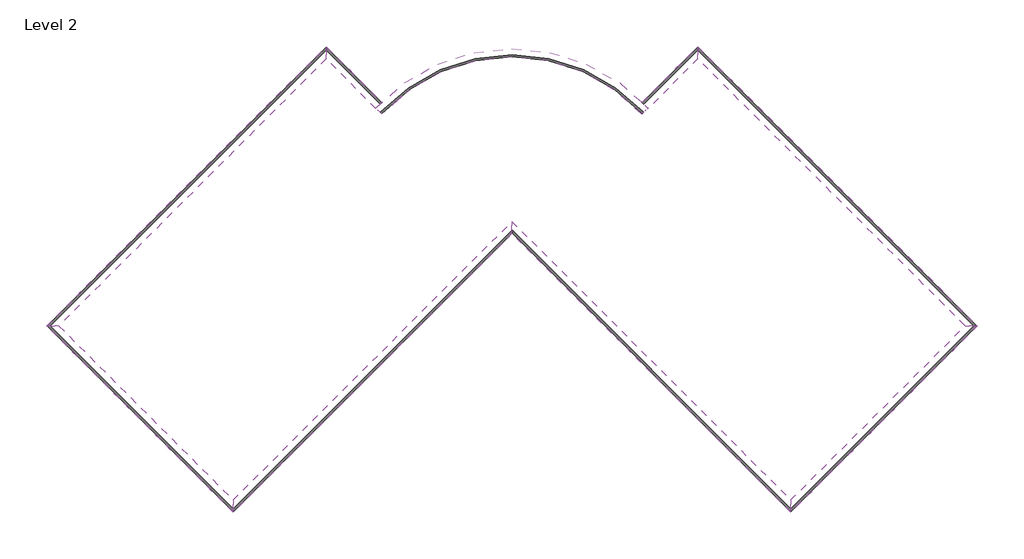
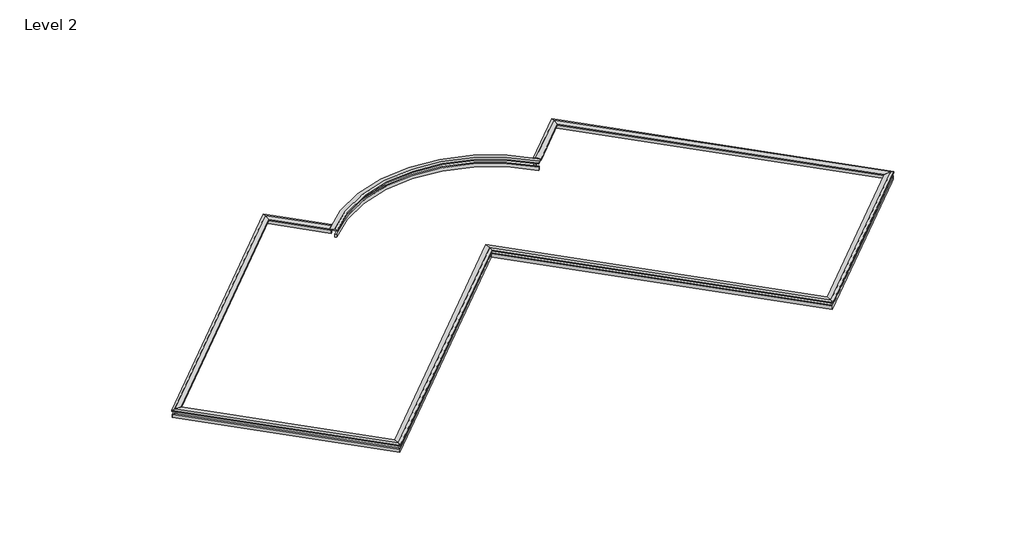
# One storey: 18 proxies.
"""IFC4 building model written with IfcOpenShell, lengths in millimetres."""

from ifc_helpers import new_model, si_unit, frame, origin, place, context, project, spatial, polyline, circle_curve, outline, extrude, faceted_brep, element, save
from ifc_brep_helpers import plane_surface, cylinder_surface, revolved_surface, advanced_brep

model = new_model("IFC4")

# Units and contexts
model_context = context("Model", 3, world=origin())
ifc_project = project(units=[si_unit("LENGTHUNIT", "METRE", prefix="MILLI")], contexts=[model_context])

# Site, building, storey
site = spatial("IfcSite", under=ifc_project)
building = spatial("IfcBuilding", under=site)
storey = spatial("IfcBuildingStorey", under=building, Name="Level 2", Elevation=3048.0)

# Proxies
placement = place(None, origin())
element("IfcBuildingElementProxy", 1, Name="Wall Sweeps", at=placement, inside=storey, context=model_context, shape_type="SweptSolid", body=[
    extrude(outline(polyline([(6055.5544139, 11965.5260839), (5990.447557, 12030.6329408), (8567.8313142, 14608.016698), (8567.8313142, 14477.8029843), (6055.5544139, 11965.5260839)])), frame((0.0, 0.0, 4165.6), z_axis=(0.0, 0.0, 1.0), x_axis=(1.0, 0.0, 0.0)), (0.0, 0.0, 1.0), 203.2),
])
element("IfcBuildingElementProxy", 2, Name="Wall Sweeps", at=placement, inside=storey, context=model_context, shape_type="Brep", body=[
    faceted_brep([(6259.8552406, 11761.2252572, 4635.5), (6062.2896059, 11958.7908919, 4673.6), (5972.4870447, 12048.5934531, 4635.5), (5972.4870447, 12048.5934531, 4572.0), (6259.8552406, 11761.2252572, 4572.0), (8567.8313142, 14069.2013307, 4635.5), (8567.8313142, 14069.2013307, 4572.0), (8567.8313142, 14643.9377225, 4572.0), (8567.8313142, 14643.9377225, 4635.5), (8567.8313142, 14464.3326001, 4673.6)], [[[0, 1, 2, 3, 4]], [[5, 6, 7, 8, 9]], [[1, 0, 5, 9]], [[2, 1, 9, 8]], [[3, 2, 8, 7]], [[4, 3, 7, 6]], [[0, 4, 6, 5]]]),
])
element("IfcBuildingElementProxy", 3, Name="Wall Sweeps", at=placement, inside=storey, context=model_context, shape_type="Brep", body=[
    faceted_brep([(8567.8313142, 14608.016698, 4368.8), (8567.8313142, 14608.016698, 4165.6), (8567.8313142, 14477.8029843, 4165.6), (8567.8313142, 14477.8029843, 4368.8), (21499.4001285, 1676.4478837, 4368.8), (21369.1864147, 1676.4478837, 4368.8), (21369.1864147, 1676.4478837, 4165.6), (21499.4001285, 1676.4478837, 4165.6), (8817.0334215, 14358.8145906, 4368.8), (8817.0334215, 14358.8145906, 4165.6)], [[[0, 1, 2, 3]], [[4, 5, 6, 7]], [[1, 0, 8, 4, 7, 9]], [[2, 1, 9, 7, 6]], [[3, 2, 6, 5]], [[0, 3, 5, 4, 8]]]),
])
element("IfcBuildingElementProxy", 4, Name="Wall Sweeps", at=placement, inside=storey, context=model_context, shape_type="Brep", body=[
    faceted_brep([(8567.8313142, 14069.2013307, 4635.5), (8567.8313142, 14464.3326001, 4673.6), (8567.8313142, 14643.9377225, 4635.5), (8567.8313142, 14643.9377225, 4572.0), (8567.8313142, 14069.2013307, 4572.0), (20960.5847612, 1676.4478837, 4635.5), (20960.5847612, 1676.4478837, 4572.0), (21535.321153, 1676.4478837, 4572.0), (21535.321153, 1676.4478837, 4635.5), (21355.7160306, 1676.4478837, 4673.6)], [[[0, 1, 2, 3, 4]], [[5, 6, 7, 8, 9]], [[1, 0, 5, 9]], [[2, 1, 9, 8]], [[3, 2, 8, 7]], [[4, 3, 7, 6]], [[0, 4, 6, 5]]]),
])
element("IfcBuildingElementProxy", 5, Name="Wall Sweeps", at=placement, inside=storey, context=model_context, shape_type="Brep", body=[
    faceted_brep([(21499.4001285, 1676.4478837, 4368.8), (21499.4001285, 1676.4478837, 4165.6), (21369.1864147, 1676.4478837, 4165.6), (21369.1864147, 1676.4478837, 4368.8), (12878.3542523, -6944.5979926, 4368.8), (12878.3542523, -6814.3842788, 4368.8), (12878.3542523, -6814.3842788, 4165.6), (12878.3542523, -6944.5979926, 4165.6), (21250.1980211, 1427.2457763, 4368.8), (21250.1980211, 1427.2457763, 4165.6)], [[[0, 1, 2, 3]], [[4, 5, 6, 7]], [[1, 0, 8, 4, 7, 9]], [[2, 1, 9, 7, 6]], [[3, 2, 6, 5]], [[0, 3, 5, 4, 8]]]),
])
element("IfcBuildingElementProxy", 6, Name="Wall Sweeps", at=placement, inside=storey, context=model_context, shape_type="Brep", body=[
    faceted_brep([(20960.5847612, 1676.4478837, 4635.5), (21355.7160306, 1676.4478837, 4673.6), (21535.321153, 1676.4478837, 4635.5), (21535.321153, 1676.4478837, 4572.0), (20960.5847612, 1676.4478837, 4572.0), (12878.3542523, -6405.7826253, 4635.5), (12878.3542523, -6405.7826253, 4572.0), (12878.3542523, -6980.519017, 4572.0), (12878.3542523, -6980.519017, 4635.5), (12878.3542523, -6800.9138946, 4673.6)], [[[0, 1, 2, 3, 4]], [[5, 6, 7, 8, 9]], [[1, 0, 5, 9]], [[2, 1, 9, 8]], [[3, 2, 8, 7]], [[4, 3, 7, 6]], [[0, 4, 6, 5]]]),
])
element("IfcBuildingElementProxy", 7, Name="Wall Sweeps", at=placement, inside=storey, context=model_context, shape_type="Brep", body=[
    faceted_brep([(12878.3542523, -6944.5979926, 4368.8), (12878.3542523, -6944.5979926, 4165.6), (12878.3542523, -6814.3842788, 4165.6), (12878.3542523, -6814.3842788, 4368.8), (-53.2145621, 5986.9708218, 4368.8), (-53.2145621, 6117.1845355, 4368.8), (-53.2145621, 6117.1845355, 4165.6), (-53.2145621, 5986.9708218, 4165.6), (12629.1521449, -6695.3958852, 4368.8), (12629.1521449, -6695.3958852, 4165.6)], [[[0, 1, 2, 3]], [[4, 5, 6, 7]], [[1, 0, 8, 4, 7, 9]], [[2, 1, 9, 7, 6]], [[3, 2, 6, 5]], [[0, 3, 5, 4, 8]]]),
])
element("IfcBuildingElementProxy", 8, Name="Wall Sweeps", at=placement, inside=storey, context=model_context, shape_type="Brep", body=[
    faceted_brep([(12878.3542523, -6405.7826253, 4635.5), (12878.3542523, -6800.9138946, 4673.6), (12878.3542523, -6980.519017, 4635.5), (12878.3542523, -6980.519017, 4572.0), (12878.3542523, -6405.7826253, 4572.0), (-53.2145621, 6525.786189, 4635.5), (-53.2145621, 6525.786189, 4572.0), (-53.2145621, 5951.0497973, 4572.0), (-53.2145621, 5951.0497973, 4635.5), (-53.2145621, 6130.6549197, 4673.6)], [[[0, 1, 2, 3, 4]], [[5, 6, 7, 8, 9]], [[1, 0, 5, 9]], [[2, 1, 9, 8]], [[3, 2, 8, 7]], [[4, 3, 7, 6]], [[0, 4, 6, 5]]]),
])
element("IfcBuildingElementProxy", 9, Name="Wall Sweeps", at=placement, inside=storey, context=model_context, shape_type="SweptSolid", body=[
    extrude(outline(polyline([(-53.2145621, 6117.1845355), (-53.2145621, 5986.9708218), (-12984.7833764, -6944.5979926), (-12984.7833764, -6814.3842788), (-53.2145621, 6117.1845355)])), frame((0.0, 0.0, 4165.6), z_axis=(0.0, 0.0, 1.0), x_axis=(1.0, 0.0, 0.0)), (0.0, 0.0, 1.0), 203.2),
])
element("IfcBuildingElementProxy", 10, Name="Wall Sweeps", at=placement, inside=storey, context=model_context, shape_type="Brep", body=[
    faceted_brep([(-53.2145621, 6525.786189, 4635.5), (-53.2145621, 6130.6549197, 4673.6), (-53.2145621, 5951.0497973, 4635.5), (-53.2145621, 5951.0497973, 4572.0), (-53.2145621, 6525.786189, 4572.0), (-12984.7833764, -6405.7826253, 4635.5), (-12984.7833764, -6405.7826253, 4572.0), (-12984.7833764, -6980.519017, 4572.0), (-12984.7833764, -6980.519017, 4635.5), (-12984.7833764, -6800.9138946, 4673.6)], [[[0, 1, 2, 3, 4]], [[5, 6, 7, 8, 9]], [[1, 0, 5, 9]], [[2, 1, 9, 8]], [[3, 2, 8, 7]], [[4, 3, 7, 6]], [[0, 4, 6, 5]]]),
])
element("IfcBuildingElementProxy", 11, Name="Wall Sweeps", at=placement, inside=storey, context=model_context, shape_type="Brep", body=[
    faceted_brep([(-21605.8292526, 1676.4478837, 4368.8), (-21605.8292526, 1676.4478837, 4165.6), (-21475.6155389, 1676.4478837, 4165.6), (-21475.6155389, 1676.4478837, 4368.8), (-8674.2604383, 14608.016698, 4368.8), (-8674.2604383, 14477.8029843, 4368.8), (-8674.2604383, 14477.8029843, 4165.6), (-8674.2604383, 14608.016698, 4165.6), (-21356.6271453, 1925.649991, 4368.8), (-21356.6271453, 1925.649991, 4165.6)], [[[0, 1, 2, 3]], [[4, 5, 6, 7]], [[1, 0, 8, 4, 7, 9]], [[2, 1, 9, 7, 6]], [[3, 2, 6, 5]], [[0, 3, 5, 4, 8]]]),
])
element("IfcBuildingElementProxy", 12, Name="Wall Sweeps", at=placement, inside=storey, context=model_context, shape_type="Brep", body=[
    faceted_brep([(-21067.0138854, 1676.4478837, 4635.5), (-21462.1451547, 1676.4478837, 4673.6), (-21641.7502771, 1676.4478837, 4635.5), (-21641.7502771, 1676.4478837, 4572.0), (-21067.0138854, 1676.4478837, 4572.0), (-8674.2604383, 14069.2013307, 4635.5), (-8674.2604383, 14069.2013307, 4572.0), (-8674.2604383, 14643.9377225, 4572.0), (-8674.2604383, 14643.9377225, 4635.5), (-8674.2604383, 14464.3326001, 4673.6)], [[[0, 1, 2, 3, 4]], [[5, 6, 7, 8, 9]], [[1, 0, 5, 9]], [[2, 1, 9, 8]], [[3, 2, 8, 7]], [[4, 3, 7, 6]], [[0, 4, 6, 5]]]),
])
element("IfcBuildingElementProxy", 13, Name="Wall Sweeps", at=placement, inside=storey, context=model_context, shape_type="Brep", body=[
    faceted_brep([(-8674.2604383, 14608.016698, 4368.8), (-8674.2604383, 14608.016698, 4165.6), (-8674.2604383, 14477.8029843, 4165.6), (-8674.2604383, 14477.8029843, 4368.8), (-6096.8766811, 12030.6329408, 4368.8), (-6161.983538, 11965.5260839, 4368.8), (-6161.983538, 11965.5260839, 4165.6), (-6096.8766811, 12030.6329408, 4165.6), (-8425.0583309, 14358.8145906, 4368.8), (-8425.0583309, 14358.8145906, 4165.6)], [[[0, 1, 2, 3]], [[4, 5, 6, 7]], [[1, 0, 8, 4, 7, 9]], [[2, 1, 9, 7, 6]], [[3, 2, 6, 5]], [[0, 3, 5, 4, 8]]]),
])
element("IfcBuildingElementProxy", 14, Name="Wall Sweeps", at=placement, inside=storey, context=model_context, shape_type="Brep", body=[
    faceted_brep([(-8674.2604383, 14069.2013307, 4635.5), (-8674.2604383, 14464.3326001, 4673.6), (-8674.2604383, 14643.9377225, 4635.5), (-8674.2604383, 14643.9377225, 4572.0), (-8674.2604383, 14069.2013307, 4572.0), (-6366.2843647, 11761.2252572, 4635.5), (-6366.2843647, 11761.2252572, 4572.0), (-6078.9161689, 12048.5934531, 4572.0), (-6078.9161689, 12048.5934531, 4635.5), (-6168.7187301, 11958.7908919, 4673.6)], [[[0, 1, 2, 3, 4]], [[5, 6, 7, 8, 9]], [[1, 0, 5, 9]], [[2, 1, 9, 8]], [[3, 2, 8, 7]], [[4, 3, 7, 6]], [[0, 4, 6, 5]]]),
])
element("IfcBuildingElementProxy", 15, Name="Wall Sweeps", at=placement, inside=storey, context=model_context, shape_type="AdvancedBrep", body=[
    advanced_brep(
    [(-6092.5945626, 11527.9466076, 4368.8), (-6160.1647864, 11590.4931541, 4368.8), (-6160.1647864, 11590.4931541, 4165.6), (-6092.5945626, 11527.9466076, 4165.6), (5986.1654385, 11527.9466076, 4368.8), (5986.1654385, 11527.9466076, 4165.6), (6053.7356622, 11590.4931541, 4165.6), (6053.7356622, 11590.4931541, 4368.8), (-5847.6763865, 11781.4246789, 4368.8), (5741.2472624, 11781.4246789, 4368.8), (5741.2472624, 11781.4246789, 4165.6), (-5847.6763865, 11781.4246789, 4165.6)],
    [
        (0, 1),
        (1, 2),
        (2, 3),
        (3, 0),
        (4, 5),
        (5, 6),
        (6, 7),
        (7, 4),
        (7, 1, circle_curve(frame((-53.2145621, 5937.5794131, 4368.8), z_axis=(0.0, 0.0, 1.0), x_axis=(-0.7338606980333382, 0.6792999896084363, 0.0)), 8321.675)),
        (0, 8, circle_curve(frame((-53.2145621, 5937.5794131, 4368.8), z_axis=(0.0, 0.0, -1.0), x_axis=(-0.7338606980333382, 0.6792999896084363, 0.0)), 8229.6)),
        (8, 9, circle_curve(frame((-53.2145621, 5937.5794131, 4368.8), z_axis=(0.0, 0.0, -1.0), x_axis=(-0.7338606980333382, 0.6792999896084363, 0.0)), 8229.5999493)),
        (9, 4, circle_curve(frame((-53.2145621, 5937.5794131, 4368.8), z_axis=(0.0, 0.0, -1.0), x_axis=(-0.7338606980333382, 0.6792999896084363, 0.0)), 8229.5999493)),
        (6, 2, circle_curve(frame((-53.2145621, 5937.5794131, 4165.6), z_axis=(0.0, 0.0, 1.0), x_axis=(-0.7338606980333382, 0.6792999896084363, 0.0)), 8321.675)),
        (5, 10, circle_curve(frame((-53.2145621, 5937.5794131, 4165.6), z_axis=(0.0, 0.0, 1.0), x_axis=(-0.7338606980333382, 0.6792999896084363, 0.0)), 8229.6)),
        (10, 11, circle_curve(frame((-53.2145621, 5937.5794131, 4165.6), z_axis=(0.0, 0.0, 1.0), x_axis=(-0.7338606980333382, 0.6792999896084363, 0.0)), 8229.5999493)),
        (11, 3, circle_curve(frame((-53.2145621, 5937.5794131, 4165.6), z_axis=(0.0, 0.0, 1.0), x_axis=(-0.7338606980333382, 0.6792999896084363, 0.0)), 8229.5999493)),
    ],
    [
        plane_surface(frame((-53.2145621, 5937.5794131, 4165.6), z_axis=(-0.6792999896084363, -0.7338606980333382, 0.0), x_axis=(-0.7338606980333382, 0.6792999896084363, 0.0))),
        plane_surface(frame((-53.2145621, 5937.5794131, 4165.6), z_axis=(0.6792999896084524, -0.7338606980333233, 0.0), x_axis=(0.7338606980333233, 0.6792999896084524, 0.0))),
        plane_surface(frame((-53.2145621, 5937.5794131, 4368.8), z_axis=(0.0, 0.0, 1.0), x_axis=(-0.7338606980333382, 0.6792999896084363, 0.0))),
        cylinder_surface(frame((-53.2145621, 5937.5794131, 4165.6), z_axis=(0.0, 0.0, -1.0), x_axis=(-0.7338606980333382, 0.6792999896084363, 0.0)), 8321.675),
        plane_surface(frame((-53.2145621, 5937.5794131, 4165.6), z_axis=(0.0, 0.0, -1.0), x_axis=(-0.7338606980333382, 0.6792999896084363, 0.0))),
        revolved_surface(polyline([(-6092.59456263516, 11527.946607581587, 4165.6), (-6092.59456263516, 11527.946607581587, 4368.8)]), (-53.2145621, 5937.5794131, 4165.6), (0.0, 0.0, -1.0)),
    ],
    [
        (0, [[1, 2, 3, 4]]),
        (1, [[5, 6, 7, 8]]),
        (2, [[9, -1, 10, 11, 12, -8]]),
        (3, [[13, -2, -9, -7]]),
        (4, [[14, 15, 16, -3, -13, -6]]),
        (5, [[-12, -11, -10, -4, -16, -15, -14, -5]]),
    ],
),
])
element("IfcBuildingElementProxy", 16, Name="Wall Sweeps", at=placement, inside=storey, context=model_context, shape_type="AdvancedBrep", body=[
    advanced_brep(
    [(-6372.1954885, 11786.7599036, 4635.5), (-6372.1954885, 11786.7599036, 4572.0), (-6073.9545009, 11510.6923879, 4572.0), (-6073.9545009, 11510.6923879, 4635.5), (-6167.1548095, 11596.9634865, 4673.6), (6265.7663644, 11786.7599036, 4635.5), (6060.7256854, 11596.9634865, 4673.6), (5967.5253767, 11510.6923879, 4635.5), (5967.5253767, 11510.6923879, 4572.0), (6265.7663644, 11786.7599036, 4572.0)],
    [
        (0, 1),
        (1, 2),
        (2, 3),
        (3, 4),
        (4, 0),
        (5, 6),
        (6, 7),
        (7, 8),
        (8, 9),
        (9, 5),
        (9, 1, circle_curve(frame((-53.2145621, 5937.5794131, 4572.0), z_axis=(0.0, 0.0, 1.0), x_axis=(-0.7338606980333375, 0.679299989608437, 0.0)), 8610.6)),
        (0, 5, circle_curve(frame((-53.2145621, 5937.5794131, 4635.5), z_axis=(0.0, 0.0, -1.0), x_axis=(-0.7338606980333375, 0.679299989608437, 0.0)), 8610.6)),
        (8, 2, circle_curve(frame((-53.2145621, 5937.5794131, 4572.0), z_axis=(0.0, 0.0, 1.0), x_axis=(-0.7338606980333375, 0.679299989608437, 0.0)), 8204.2)),
        (7, 3, circle_curve(frame((-53.2145621, 5937.5794131, 4635.5), z_axis=(0.0, 0.0, 1.0), x_axis=(-0.7338606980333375, 0.679299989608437, 0.0)), 8204.2)),
        (6, 4, circle_curve(frame((-53.2145621, 5937.5794131, 4673.6), z_axis=(0.0, 0.0, 1.0), x_axis=(-0.7338606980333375, 0.679299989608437, 0.0)), 8331.2)),
    ],
    [
        plane_surface(frame((-53.2145621, 5937.5794131, 4572.0), z_axis=(-0.679299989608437, -0.7338606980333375, 0.0), x_axis=(-0.7338606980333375, 0.679299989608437, 0.0))),
        plane_surface(frame((-53.2145621, 5937.5794131, 4572.0), z_axis=(0.6792999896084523, -0.7338606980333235, 0.0), x_axis=(0.7338606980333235, 0.6792999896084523, 0.0))),
        cylinder_surface(frame((-53.2145621, 5937.5794131, 4572.0), z_axis=(0.0, 0.0, -1.0), x_axis=(-0.7338606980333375, 0.679299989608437, 0.0)), 8610.6),
        plane_surface(frame((-53.2145621, 5937.5794131, 4572.0), z_axis=(0.0, 0.0, -1.0), x_axis=(-0.7338606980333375, 0.679299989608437, 0.0))),
        revolved_surface(polyline([(-6073.954500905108, 11510.692387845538, 4572.0), (-6073.954500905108, 11510.692387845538, 4635.5)]), (-53.2145621, 5937.5794131, 4572.0), (0.0, 0.0, -1.0)),
        revolved_surface(polyline([(-6073.9545009, 11510.6923879, 4635.5), (-6167.1548095, 11596.9634865, 4673.6)]), (-53.2145621, 5937.5794131, 4572.0), (0.0, 0.0, -1.0)),
        revolved_surface(polyline([(-6167.1548095, 11596.9634865, 4673.6), (-6372.1954885, 11786.7599036, 4635.5)]), (-53.2145621, 5937.5794131, 4572.0), (0.0, 0.0, -1.0)),
    ],
    [
        (0, [[1, 2, 3, 4, 5]]),
        (1, [[6, 7, 8, 9, 10]]),
        (2, [[11, -1, 12, -10]]),
        (3, [[13, -2, -11, -9]]),
        (4, [[14, -3, -13, -8]]),
        (5, [[15, -4, -14, -7]]),
        (6, [[-12, -5, -15, -6]]),
    ],
),
])
element("IfcBuildingElementProxy", 17, Name="Wall Sweeps", at=placement, inside=storey, context=model_context, shape_type="Brep", body=[
    faceted_brep([(-12984.7833764, -6944.5979926, 4368.8), (-12984.7833764, -6944.5979926, 4165.6), (-12984.7833764, -6814.3842788, 4165.6), (-12984.7833764, -6814.3842788, 4368.8), (-21605.8292526, 1676.4478837, 4368.8), (-21475.6155389, 1676.4478837, 4368.8), (-21475.6155389, 1676.4478837, 4165.6), (-21605.8292526, 1676.4478837, 4165.6), (-13233.9854838, -6695.3958852, 4368.8), (-13233.9854838, -6695.3958852, 4165.6)], [[[0, 1, 2, 3]], [[4, 5, 6, 7]], [[1, 0, 8, 4, 7, 9]], [[2, 1, 9, 7, 6]], [[3, 2, 6, 5]], [[0, 3, 5, 4, 8]]]),
])
element("IfcBuildingElementProxy", 18, Name="Wall Sweeps", at=placement, inside=storey, context=model_context, shape_type="Brep", body=[
    faceted_brep([(-12984.7833764, -6405.7826253, 4635.5), (-12984.7833764, -6800.9138946, 4673.6), (-12984.7833764, -6980.519017, 4635.5), (-12984.7833764, -6980.519017, 4572.0), (-12984.7833764, -6405.7826253, 4572.0), (-21067.0138854, 1676.4478837, 4635.5), (-21067.0138854, 1676.4478837, 4572.0), (-21641.7502771, 1676.4478837, 4572.0), (-21641.7502771, 1676.4478837, 4635.5), (-21462.1451547, 1676.4478837, 4673.6)], [[[0, 1, 2, 3, 4]], [[5, 6, 7, 8, 9]], [[1, 0, 5, 9]], [[2, 1, 9, 8]], [[3, 2, 8, 7]], [[4, 3, 7, 6]], [[0, 4, 6, 5]]]),
])

save(model, "model.ifc")
